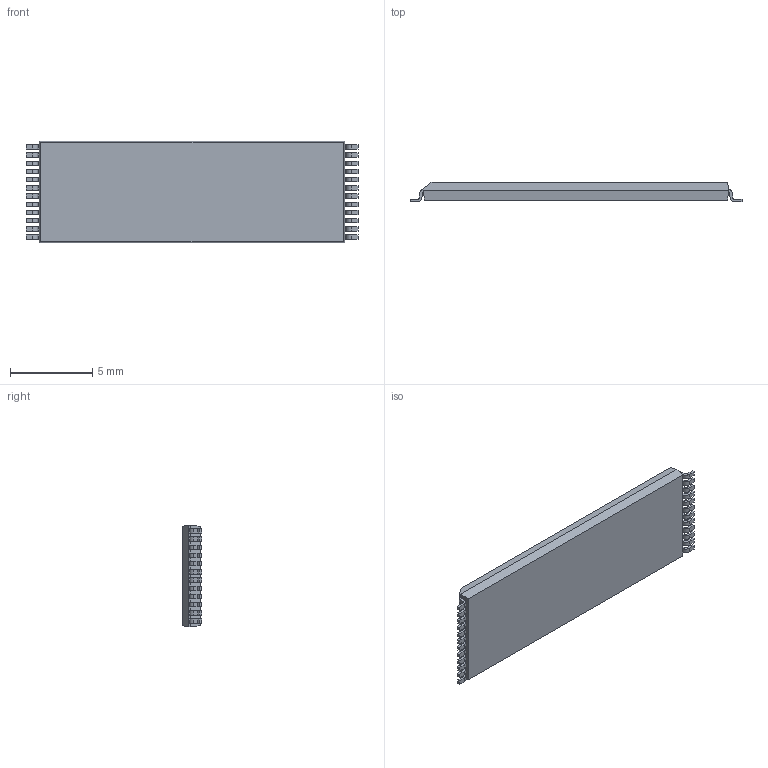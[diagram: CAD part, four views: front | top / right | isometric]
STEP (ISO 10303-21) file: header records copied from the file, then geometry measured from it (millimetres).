
FILE_DESCRIPTION (( 'STEP AP214' ), '1' );
FILE_NAME ('TSSOP50P2000X120-24_MO-142.AD.STEP', '2014-10-29T11:01:19', ( 'Tester2' ), ( '' ), 'SwSTEP 2.0', 'SolidWorks 2012', '' );
FILE_SCHEMA (( 'AUTOMOTIVE_DESIGN' ));
Length unit declared in the file: millimetre
Products named in the file (1): TSSOP50P2000X120-24_MO-142.AD
Bounding box: 20.2 x 1.2 x 6.2 mm (x, y, z)
Volume: 125.3 mm3; surface area: 300.9 mm2
Topology: 1 solids, 1 shells, 278 faces, 821 edges, 546 vertices
Faces by surface type: plane 180, cylinder 98
Entity records: 12240 total; most frequent: CARTESIAN_POINT 1646, ORIENTED_EDGE 1642, DIRECTION 1575, EDGE_CURVE 821, LINE 625, VECTOR 625, VERTEX_POINT 546, AXIS2_PLACEMENT_3D 475
